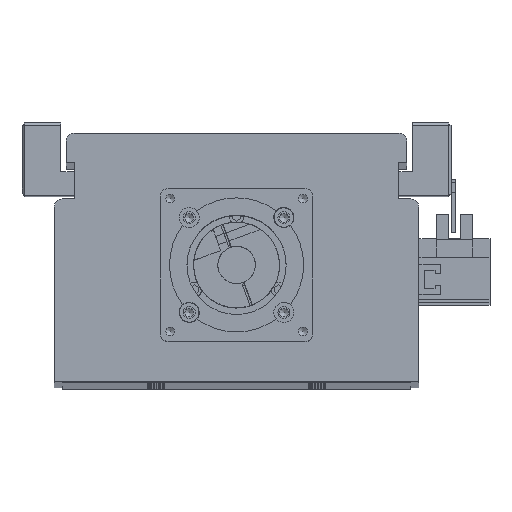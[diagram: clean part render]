
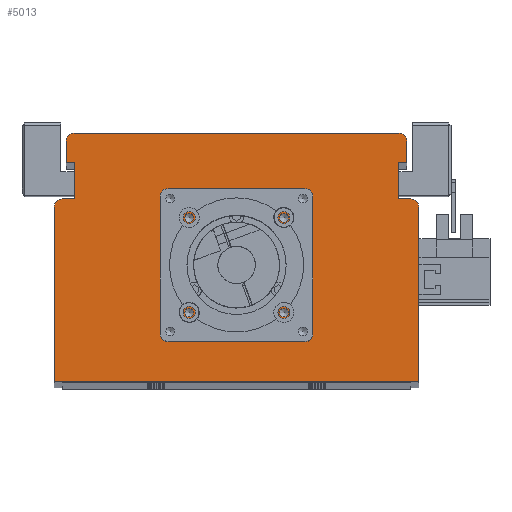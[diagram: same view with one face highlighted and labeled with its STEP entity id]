
A CAD part, top view. The second image highlights one B-rep face of the part: STEP entity #5013.
In plain terms, the highlighted planar face has unit normal (0, 0, 1).
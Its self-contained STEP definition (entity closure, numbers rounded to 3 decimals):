
#3571=CARTESIAN_POINT('',(19.321,61.5,1395.0));
#3572=VERTEX_POINT('',#3571);
#3573=CARTESIAN_POINT('',(17.7,61.5,1395.0));
#3574=DIRECTION('',(0.0,0.0,-1.0));
#3575=DIRECTION('',(1.0,0.0,0.0));
#3576=AXIS2_PLACEMENT_3D('',#3573,#3574,#3575);
#3577=CIRCLE('',#3576,1.621);
#3578=EDGE_CURVE('',#3572,#3572,#3577,.T.);
#3650=CARTESIAN_POINT('',(19.321,26.1,1395.0));
#3651=VERTEX_POINT('',#3650);
#3652=CARTESIAN_POINT('',(17.7,26.1,1395.0));
#3653=DIRECTION('',(0.0,0.0,-1.0));
#3654=DIRECTION('',(1.0,0.0,0.0));
#3655=AXIS2_PLACEMENT_3D('',#3652,#3653,#3654);
#3656=CIRCLE('',#3655,1.621);
#3657=EDGE_CURVE('',#3651,#3651,#3656,.T.);
#3729=CARTESIAN_POINT('',(-16.079,26.1,1395.0));
#3730=VERTEX_POINT('',#3729);
#3731=CARTESIAN_POINT('',(-17.7,26.1,1395.0));
#3732=DIRECTION('',(0.0,0.0,-1.0));
#3733=DIRECTION('',(1.0,0.0,0.0));
#3734=AXIS2_PLACEMENT_3D('',#3731,#3732,#3733);
#3735=CIRCLE('',#3734,1.621);
#3736=EDGE_CURVE('',#3730,#3730,#3735,.T.);
#3808=CARTESIAN_POINT('',(-16.079,61.5,1395.0));
#3809=VERTEX_POINT('',#3808);
#3810=CARTESIAN_POINT('',(-17.7,61.5,1395.0));
#3811=DIRECTION('',(0.0,0.0,-1.0));
#3812=DIRECTION('',(1.0,0.0,0.0));
#3813=AXIS2_PLACEMENT_3D('',#3810,#3811,#3812);
#3814=CIRCLE('',#3813,1.621);
#3815=EDGE_CURVE('',#3809,#3809,#3814,.T.);
#3849=CARTESIAN_POINT('',(26.5,43.8,1395.0));
#3850=VERTEX_POINT('',#3849);
#3851=CARTESIAN_POINT('',(24.5,43.8,1395.0));
#3852=DIRECTION('',(0.0,0.0,-1.0));
#3853=DIRECTION('',(1.0,0.0,0.0));
#3854=AXIS2_PLACEMENT_3D('',#3851,#3852,#3853);
#3855=CIRCLE('',#3854,2.0);
#3856=EDGE_CURVE('',#3850,#3850,#3855,.T.);
#3898=CARTESIAN_POINT('',(-22.5,43.8,1395.0));
#3899=VERTEX_POINT('',#3898);
#3900=CARTESIAN_POINT('',(-24.5,43.8,1395.0));
#3901=DIRECTION('',(0.0,0.0,-1.0));
#3902=DIRECTION('',(1.0,0.0,0.0));
#3903=AXIS2_PLACEMENT_3D('',#3900,#3901,#3902);
#3904=CIRCLE('',#3903,2.0);
#3905=EDGE_CURVE('',#3899,#3899,#3904,.T.);
#4829=CARTESIAN_POINT('',(21.05,43.8,1395.0));
#4830=VERTEX_POINT('',#4829);
#4831=CARTESIAN_POINT('',(0.0,43.8,1395.0));
#4832=DIRECTION('',(0.0,0.0,-1.0));
#4833=DIRECTION('',(-1.0,0.0,0.0));
#4834=AXIS2_PLACEMENT_3D('',#4831,#4832,#4833);
#4835=CIRCLE('',#4834,21.05);
#4836=EDGE_CURVE('',#4830,#4830,#4835,.T.);
#4853=CARTESIAN_POINT('',(0.,29.533,1395.0));
#4854=DIRECTION('',(0.0,0.0,1.0));
#4855=DIRECTION('',(1.0,0.0,0.0));
#4856=AXIS2_PLACEMENT_3D('',#4853,#4854,#4855);
#4857=PLANE('',#4856);
#4858=CARTESIAN_POINT('',(-65.,68.5,1395.0));
#4859=VERTEX_POINT('',#4858);
#4860=CARTESIAN_POINT('',(-60.5,68.5,1395.0));
#4861=VERTEX_POINT('',#4860);
#4862=CARTESIAN_POINT('',(-65.,68.5,1395.0));
#4863=DIRECTION('',(1.0,0.0,0.0));
#4864=VECTOR('',#4863,4.5);
#4865=LINE('',#4862,#4864);
#4866=EDGE_CURVE('',#4859,#4861,#4865,.T.);
#4867=ORIENTED_EDGE('',*,*,#4866,.F.);
#4868=CARTESIAN_POINT('',(-68.,65.5,1395.0));
#4869=VERTEX_POINT('',#4868);
#4870=CARTESIAN_POINT('',(-65.,65.5,1395.0));
#4871=DIRECTION('',(0.0,0.0,-1.0));
#4872=DIRECTION('',(0.0,1.0,0.0));
#4873=AXIS2_PLACEMENT_3D('',#4870,#4871,#4872);
#4874=CIRCLE('',#4873,3.);
#4875=EDGE_CURVE('',#4869,#4859,#4874,.T.);
#4876=ORIENTED_EDGE('',*,*,#4875,.F.);
#4877=CARTESIAN_POINT('',(-68.0,0.5,1395.0));
#4878=VERTEX_POINT('',#4877);
#4879=CARTESIAN_POINT('',(-68.0,0.5,1395.0));
#4880=DIRECTION('',(0.0,1.0,0.0));
#4881=VECTOR('',#4880,65.0);
#4882=LINE('',#4879,#4881);
#4883=EDGE_CURVE('',#4878,#4869,#4882,.T.);
#4884=ORIENTED_EDGE('',*,*,#4883,.F.);
#4885=CARTESIAN_POINT('',(68.0,0.5,1395.0));
#4886=VERTEX_POINT('',#4885);
#4887=CARTESIAN_POINT('',(68.0,0.5,1395.0));
#4888=DIRECTION('',(-1.0,0.0,0.0));
#4889=VECTOR('',#4888,136.0);
#4890=LINE('',#4887,#4889);
#4891=EDGE_CURVE('',#4886,#4878,#4890,.T.);
#4892=ORIENTED_EDGE('',*,*,#4891,.F.);
#4893=CARTESIAN_POINT('',(68.0,65.5,1395.0));
#4894=VERTEX_POINT('',#4893);
#4895=CARTESIAN_POINT('',(68.0,65.5,1395.0));
#4896=DIRECTION('',(0.0,-1.0,0.0));
#4897=VECTOR('',#4896,65.0);
#4898=LINE('',#4895,#4897);
#4899=EDGE_CURVE('',#4894,#4886,#4898,.T.);
#4900=ORIENTED_EDGE('',*,*,#4899,.F.);
#4901=CARTESIAN_POINT('',(65.,68.5,1395.0));
#4902=VERTEX_POINT('',#4901);
#4903=CARTESIAN_POINT('',(65.,65.5,1395.0));
#4904=DIRECTION('',(0.0,0.0,-1.0));
#4905=DIRECTION('',(1.0,0.0,0.0));
#4906=AXIS2_PLACEMENT_3D('',#4903,#4904,#4905);
#4907=CIRCLE('',#4906,3.);
#4908=EDGE_CURVE('',#4902,#4894,#4907,.T.);
#4909=ORIENTED_EDGE('',*,*,#4908,.F.);
#4910=CARTESIAN_POINT('',(60.5,68.5,1395.0));
#4911=VERTEX_POINT('',#4910);
#4912=CARTESIAN_POINT('',(60.5,68.5,1395.0));
#4913=DIRECTION('',(1.0,0.0,0.0));
#4914=VECTOR('',#4913,4.5);
#4915=LINE('',#4912,#4914);
#4916=EDGE_CURVE('',#4911,#4902,#4915,.T.);
#4917=ORIENTED_EDGE('',*,*,#4916,.F.);
#4918=CARTESIAN_POINT('',(60.5,82.,1395.));
#4919=VERTEX_POINT('',#4918);
#4920=CARTESIAN_POINT('',(60.5,82.,1395.));
#4921=DIRECTION('',(0.0,-1.0,0.0));
#4922=VECTOR('',#4921,13.5);
#4923=LINE('',#4920,#4922);
#4924=EDGE_CURVE('',#4919,#4911,#4923,.T.);
#4925=ORIENTED_EDGE('',*,*,#4924,.F.);
#4926=CARTESIAN_POINT('',(63.5,82.,1395.));
#4927=VERTEX_POINT('',#4926);
#4928=CARTESIAN_POINT('',(63.5,82.,1395.));
#4929=DIRECTION('',(-1.0,0.0,0.0));
#4930=VECTOR('',#4929,3.0);
#4931=LINE('',#4928,#4930);
#4932=EDGE_CURVE('',#4927,#4919,#4931,.T.);
#4933=ORIENTED_EDGE('',*,*,#4932,.F.);
#4934=CARTESIAN_POINT('',(63.5,90.0,1395.));
#4935=VERTEX_POINT('',#4934);
#4936=CARTESIAN_POINT('',(63.5,90.0,1395.));
#4937=DIRECTION('',(0.0,-1.0,0.0));
#4938=VECTOR('',#4937,8.);
#4939=LINE('',#4936,#4938);
#4940=EDGE_CURVE('',#4935,#4927,#4939,.T.);
#4941=ORIENTED_EDGE('',*,*,#4940,.F.);
#4942=CARTESIAN_POINT('',(60.5,93.,1395.));
#4943=VERTEX_POINT('',#4942);
#4944=CARTESIAN_POINT('',(60.5,90.0,1395.0));
#4945=DIRECTION('',(0.0,0.0,-1.0));
#4946=DIRECTION('',(1.0,0.0,0.0));
#4947=AXIS2_PLACEMENT_3D('',#4944,#4945,#4946);
#4948=CIRCLE('',#4947,3.);
#4949=EDGE_CURVE('',#4943,#4935,#4948,.T.);
#4950=ORIENTED_EDGE('',*,*,#4949,.F.);
#4951=CARTESIAN_POINT('',(-60.5,93.0,1395.));
#4952=VERTEX_POINT('',#4951);
#4953=CARTESIAN_POINT('',(-60.5,93.0,1395.));
#4954=DIRECTION('',(1.0,0.0,0.0));
#4955=VECTOR('',#4954,121.0);
#4956=LINE('',#4953,#4955);
#4957=EDGE_CURVE('',#4952,#4943,#4956,.T.);
#4958=ORIENTED_EDGE('',*,*,#4957,.F.);
#4959=CARTESIAN_POINT('',(-63.5,90.0,1395.));
#4960=VERTEX_POINT('',#4959);
#4961=CARTESIAN_POINT('',(-60.5,90.0,1395.0));
#4962=DIRECTION('',(0.0,0.0,-1.0));
#4963=DIRECTION('',(0.0,1.0,0.0));
#4964=AXIS2_PLACEMENT_3D('',#4961,#4962,#4963);
#4965=CIRCLE('',#4964,3.);
#4966=EDGE_CURVE('',#4960,#4952,#4965,.T.);
#4967=ORIENTED_EDGE('',*,*,#4966,.F.);
#4968=CARTESIAN_POINT('',(-63.5,82.,1395.));
#4969=VERTEX_POINT('',#4968);
#4970=CARTESIAN_POINT('',(-63.5,82.,1395.));
#4971=DIRECTION('',(0.0,1.0,0.0));
#4972=VECTOR('',#4971,8.);
#4973=LINE('',#4970,#4972);
#4974=EDGE_CURVE('',#4969,#4960,#4973,.T.);
#4975=ORIENTED_EDGE('',*,*,#4974,.F.);
#4976=CARTESIAN_POINT('',(-60.5,82.,1395.));
#4977=VERTEX_POINT('',#4976);
#4978=CARTESIAN_POINT('',(-60.5,82.,1395.));
#4979=DIRECTION('',(-1.0,0.0,0.0));
#4980=VECTOR('',#4979,3.);
#4981=LINE('',#4978,#4980);
#4982=EDGE_CURVE('',#4977,#4969,#4981,.T.);
#4983=ORIENTED_EDGE('',*,*,#4982,.F.);
#4984=CARTESIAN_POINT('',(-60.5,68.5,1395.0));
#4985=DIRECTION('',(0.0,1.0,0.0));
#4986=VECTOR('',#4985,13.5);
#4987=LINE('',#4984,#4986);
#4988=EDGE_CURVE('',#4861,#4977,#4987,.T.);
#4989=ORIENTED_EDGE('',*,*,#4988,.F.);
#4990=EDGE_LOOP('',(#4867,#4876,#4884,#4892,#4900,#4909,#4917,#4925,#4933,#4941,#4950,#4958,#4967,#4975,#4983,#4989));
#4991=FACE_OUTER_BOUND('',#4990,.T.);
#4992=ORIENTED_EDGE('',*,*,#3578,.T.);
#4993=EDGE_LOOP('',(#4992));
#4994=FACE_BOUND('',#4993,.T.);
#4995=ORIENTED_EDGE('',*,*,#3657,.T.);
#4996=EDGE_LOOP('',(#4995));
#4997=FACE_BOUND('',#4996,.T.);
#4998=ORIENTED_EDGE('',*,*,#3736,.T.);
#4999=EDGE_LOOP('',(#4998));
#5000=FACE_BOUND('',#4999,.T.);
#5001=ORIENTED_EDGE('',*,*,#3815,.T.);
#5002=EDGE_LOOP('',(#5001));
#5003=FACE_BOUND('',#5002,.T.);
#5004=ORIENTED_EDGE('',*,*,#3856,.T.);
#5005=EDGE_LOOP('',(#5004));
#5006=FACE_BOUND('',#5005,.T.);
#5007=ORIENTED_EDGE('',*,*,#3905,.T.);
#5008=EDGE_LOOP('',(#5007));
#5009=FACE_BOUND('',#5008,.T.);
#5010=ORIENTED_EDGE('',*,*,#4836,.T.);
#5011=EDGE_LOOP('',(#5010));
#5012=FACE_BOUND('',#5011,.T.);
#5013=ADVANCED_FACE('',(#4991,#4994,#4997,#5000,#5003,#5006,#5009,#5012),#4857,.T.);
